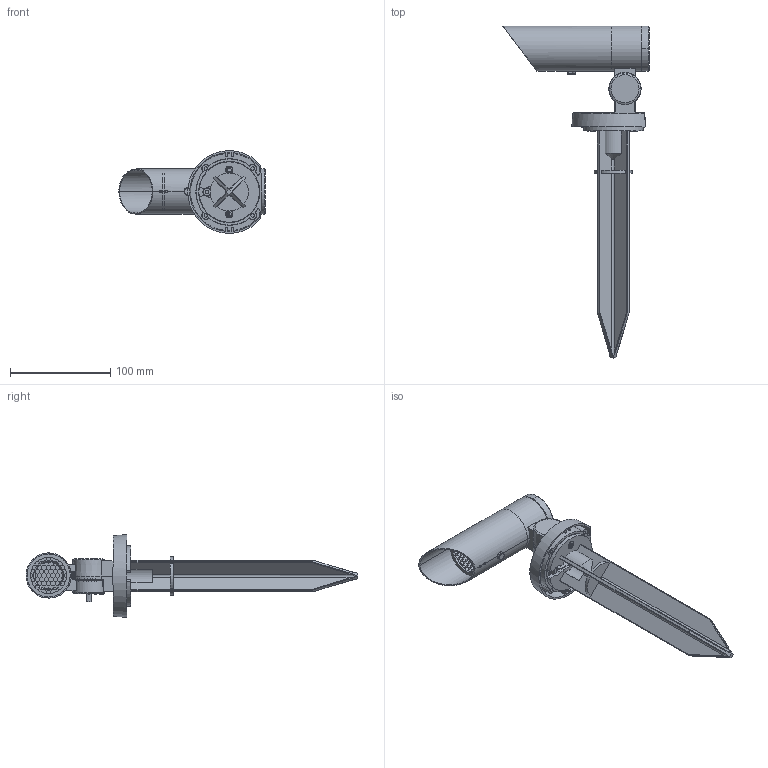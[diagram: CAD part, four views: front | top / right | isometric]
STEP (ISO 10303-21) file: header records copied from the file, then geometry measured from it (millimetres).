
FILE_DESCRIPTION((''),'2;1');
FILE_NAME('B3TMS0158_ASM','2024-08-28T',('C028'),(''),'CREO PARAMETRIC BY PTC INC, 2014190','CREO PARAMETRIC BY PTC INC, 2014190','');
FILE_SCHEMA(('CONFIG_CONTROL_DESIGN'));
Length unit declared in the file: millimetre
Products named in the file (28): FACE-COVER-RUBBER-S_1_1_1_19_1; COVER_B_S_2_1_1_1_19_1; 3TM_DENGTI_1_1_1_19_1; PAD_1_1_1_19_1; COVER_S_ANY_1_1_1_19_1; BACK-COVER-RUBBER-S_1_1_1_19_1; PRT0019_1_1_1_19_1; MSBR-9_1_1_1_1_19_1; B96_1; LENS-COVER-S_1_1_1_19_1; 2W_ASM_ASM_ASM_1_ASM_1_ASM_1_AS_ASM; 2CF-DRIVER-BOX_1_1_1_19_1; GLASS-S_1_1_1_19_1; 3TA_____ASM_ASM_1_ASM_1_ASM_1_A_ASM; PRT0025_1_1_1_19_1; PRT0026_1_1_1_19_1; 3UA_______1_1_1_19_1; 3TM__________-99347_1_1_1_19_1; 3TM__________-57974_ASM_ASM_1_A_ASM; ASM0001_ASM_ASM_1_ASM_1_ASM_1_A_ASM; 0_GB_2_1_1_58_1; 16A_19_1_1; M5_17_1_1; 16_ASM_16_ASM_1_ASM_1_ASM; 16_ASM_ASM_1_ASM_1_ASM; _18A_ASM_1_ASM; 3TM_ASM_ASM_1_ASM_1_ASM_1_ASM_1_ASM; B3TMS0158_ASM
Assembly tree (30 placements, depth 6):
  B3TMS0158_ASM
    3TM_ASM_ASM_1_ASM_1_ASM_1_ASM_1_ASM
      ASM0001_ASM_ASM_1_ASM_1_ASM_1_A_ASM
        3TA_____ASM_ASM_1_ASM_1_ASM_1_A_ASM
          FACE-COVER-RUBBER-S_1_1_1_19_1
          COVER_B_S_2_1_1_1_19_1
          3TM_DENGTI_1_1_1_19_1
          PAD_1_1_1_19_1  x2
          COVER_S_ANY_1_1_1_19_1
          BACK-COVER-RUBBER-S_1_1_1_19_1
          PRT0019_1_1_1_19_1  x2
          2W_ASM_ASM_ASM_1_ASM_1_ASM_1_AS_ASM
            MSBR-9_1_1_1_1_19_1
            B96_1
            LENS-COVER-S_1_1_1_19_1
          2CF-DRIVER-BOX_1_1_1_19_1
          GLASS-S_1_1_1_19_1
        PRT0025_1_1_1_19_1
        3TM__________-57974_ASM_ASM_1_A_ASM
          PRT0026_1_1_1_19_1
          3UA_______1_1_1_19_1
          3TM__________-99347_1_1_1_19_1
      0_GB_2_1_1_58_1
      _18A_ASM_1_ASM
        16_ASM_ASM_1_ASM_1_ASM
          16_ASM_16_ASM_1_ASM_1_ASM
            16A_19_1_1
            M5_17_1_1  x2
Bounding box: 145.49 x 330.5 x 82.45 mm (x, y, z)
Volume: 214983.6 mm3; surface area: 166809.7 mm2
Topology: 22 solids, 22 shells, 2325 faces, 6386 edges, 4148 vertices
Faces by surface type: plane 1080, cylinder 758, cone 220, bspline 182, torus 67, sphere 18
Entity records: 96209 total; most frequent: CARTESIAN_POINT 40062, ORIENTED_EDGE 12062, DIRECTION 10981, EDGE_CURVE 6031, VERTEX_POINT 3929, AXIS2_PLACEMENT_3D 3751, VECTOR 3479, LINE 3479
